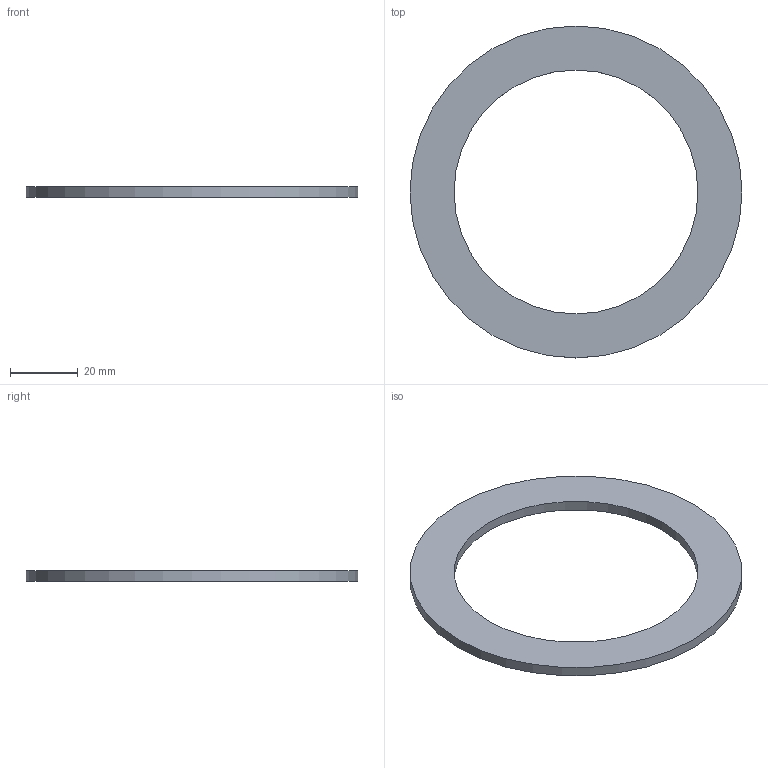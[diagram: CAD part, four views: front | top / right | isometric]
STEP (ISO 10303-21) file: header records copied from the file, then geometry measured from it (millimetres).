
FILE_DESCRIPTION(/* description */ (''),/* implementation_level */ '2;1');
FILE_NAME(/* name */ '104_insulating_ring.stp',/* time_stamp */ '2020-11-09T14:47:56+01:00',/* author */ (''),/* organization */ (''),/* preprocessor_version */ 'ST-DEVELOPER v16.7',/* originating_system */ 'SIEMENS PLM Software NX 12.0',/* authorisation */ '');
FILE_SCHEMA (('AUTOMOTIVE_DESIGN { 1 0 10303 214 3 1 1 1 }'));
Length unit declared in the file: millimetre
Products named in the file (1): bez430C4A55itg5
Bounding box: 98 x 98 x 3 mm (x, y, z)
Volume: 10414.4 mm3; surface area: 8545.1 mm2
Topology: 1 solids, 1 shells, 4 faces, 6 edges, 4 vertices
Faces by surface type: cylinder 2, plane 2
Full cylindrical faces by diameter (mm): 72 x1, 98 x1
Entity records: 120 total; most frequent: DIRECTION 18, CARTESIAN_POINT 13, AXIS2_PLACEMENT_3D 9, FACE_BOUND 8, EDGE_LOOP 8, ORIENTED_EDGE 8, ADVANCED_FACE 4, VERTEX_POINT 4
